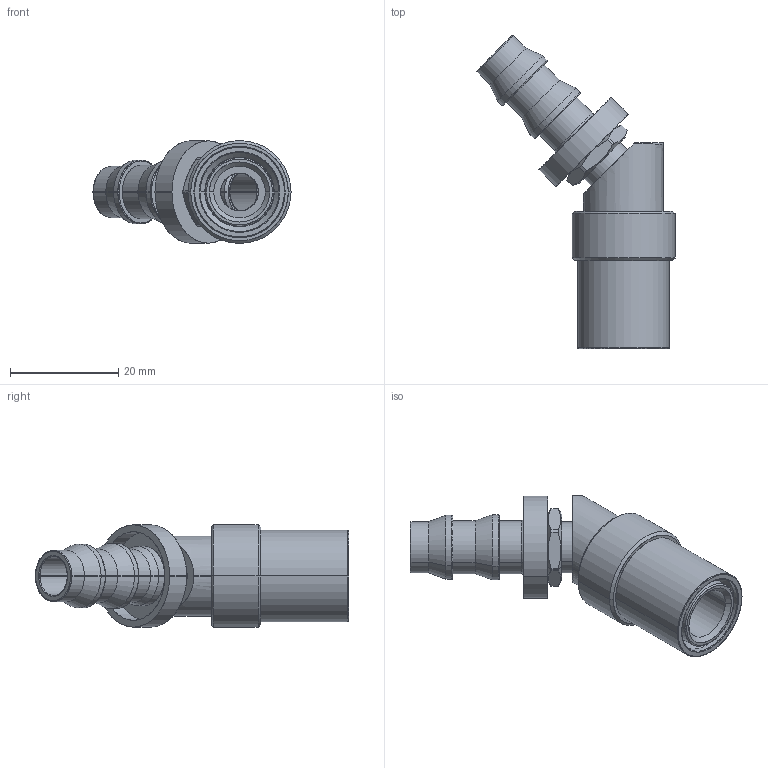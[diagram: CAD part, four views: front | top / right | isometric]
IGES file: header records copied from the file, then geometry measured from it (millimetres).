
Start section: SolidWorks IGES file using analytic representation for surfaces
Global section: file name: C:\Users\365admin\AppData\Local\Temp\InFlowConvert3DWorking\SC226-PL.igs; native system: SolidWorks 2019; preprocessor: SolidWorks 2019; author: 365admin; date: 220203.030635; units: inch
Bounding box: 36.63 x 57.96 x 19.05 mm (x, y, z)
Surface area: 8890.9 mm2 (no closed solid volume)
Topology: 0 solids, 0 shells, 151 faces, 2029 edges, 2027 vertices
Faces by surface type: revolution 94, bspline 57
